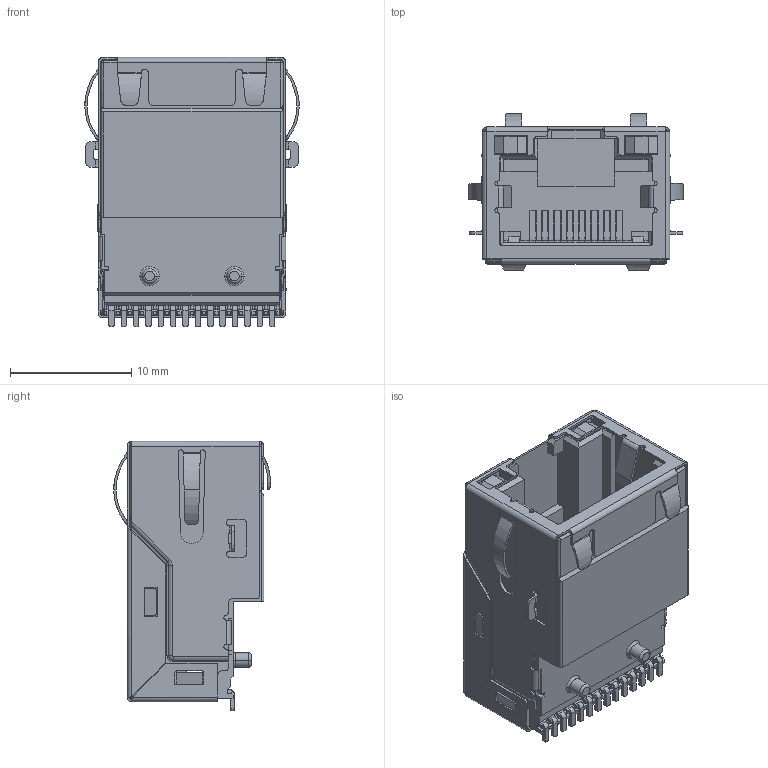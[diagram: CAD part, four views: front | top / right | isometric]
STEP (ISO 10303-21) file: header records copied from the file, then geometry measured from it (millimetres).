
FILE_DESCRIPTION((''),'2;1');
FILE_NAME('DGKYD211Q077DB1A7CBS057','2021-04-29T10:03:47',('Administrator'),(''),'CREO PARAMETRIC BY PTC INC, 2018400','CREO PARAMETRIC BY PTC INC, 2018400','');
FILE_SCHEMA(('CONFIG_CONTROL_DESIGN','SHAPE_APPEARANCE_LAYERS_GROUPS'));
Length unit declared in the file: millimetre
Products named in the file (1): DGKYD211Q077DB1A7CBS057
Bounding box: 17.7 x 12.93 x 22.22 mm (x, y, z)
Volume: 1458.2 mm3; surface area: 4942.1 mm2
Topology: 1 solids, 1 shells, 1557 faces, 4580 edges, 2960 vertices
Faces by surface type: plane 1112, cylinder 367, bspline 54, torus 18, sphere 4, extrusion 2
Entity records: 53010 total; most frequent: CARTESIAN_POINT 11408, ORIENTED_EDGE 9152, DIRECTION 8044, EDGE_CURVE 4576, VECTOR 3686, LINE 3684, VERTEX_POINT 2960, AXIS2_PLACEMENT_3D 2179
